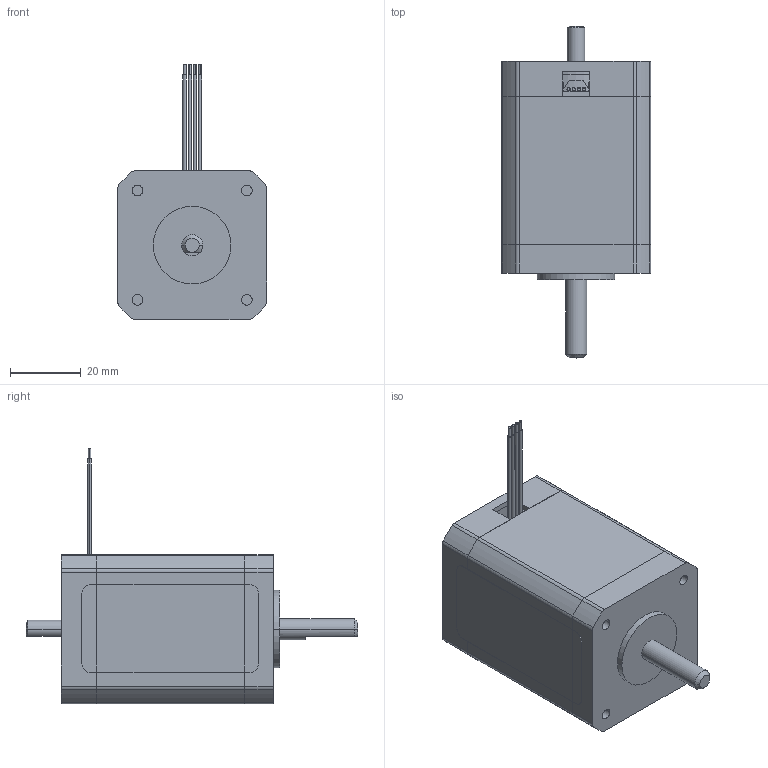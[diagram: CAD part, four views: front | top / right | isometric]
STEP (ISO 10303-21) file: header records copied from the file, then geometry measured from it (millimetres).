
FILE_DESCRIPTION (( 'STEP AP203' ), '1' );
FILE_NAME ('42Ðý×ª²½½øµç»ú.STEP', '2024-05-21T01:09:20', ( '' ), ( '' ), 'SwSTEP 2.0', 'SolidWorks 2019', '' );
FILE_SCHEMA (( 'CONFIG_CONTROL_DESIGN' ));
Length unit declared in the file: millimetre
Products named in the file (12): 12-018-1_X2_FF08_X0_17H2034_X2_9AA867B6FF09_X0__7; 09-007-3_X2_FF087EFFFF09_X0__7; 09-007-2_X2_FF087EA2767DFF09_X0__7; 09-007-4_X2_FF087EFF767DFF09_X0__7; 01-009_7; 01-008_7; 42唅蛌祭輛萇儂; 42 _X2_4E0953E094ED724C_X0__1; 4231_X2_539A5EA687BA9489_X0__14; 02-019_X2_FF08535553E0539A5B9A5B5094C182AFFF09_X0__7; 42_X2_5B9A5B50_X0__7; 09-007-1_X2_FF087EA2FF09_X0__12
Assembly tree (14 placements, depth 3):
  42唅蛌祭輛萇儂
    01-008_7
    01-009_7
    42_X2_5B9A5B50_X0__7
      02-019_X2_FF08535553E0539A5B9A5B5094C182AFFF09_X0__7
      12-018-1_X2_FF08_X0_17H2034_X2_9AA867B6FF09_X0__7
      09-007-1_X2_FF087EA2FF09_X0__12
      09-007-2_X2_FF087EA2767DFF09_X0__7
      09-007-3_X2_FF087EFFFF09_X0__7
      09-007-4_X2_FF087EFF767DFF09_X0__7
    4231_X2_539A5EA687BA9489_X0__14  x4
    42 _X2_4E0953E094ED724C_X0__1
Bounding box: 42.3 x 94.1 x 72.35 mm (x, y, z)
Volume: 53618.2 mm3; surface area: 45581.4 mm2
Topology: 22 solids, 22 shells, 834 faces, 2245 edges, 1484 vertices
Faces by surface type: plane 440, cylinder 368, cone 26
Entity records: 25861 total; most frequent: DIRECTION 4395, CARTESIAN_POINT 4383, ORIENTED_EDGE 4178, EDGE_CURVE 2089, AXIS2_PLACEMENT_3D 1556, VERTEX_POINT 1382, LINE 1283, VECTOR 1283
